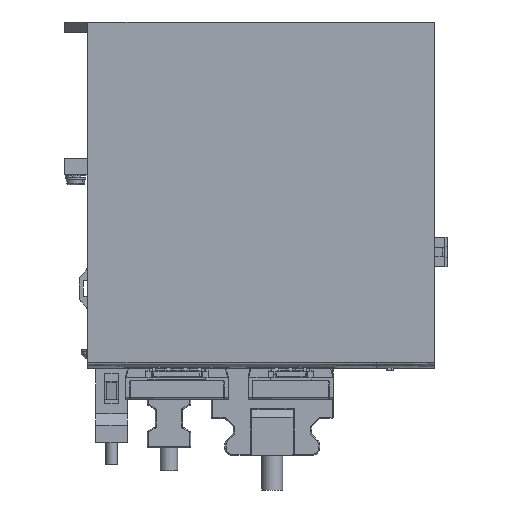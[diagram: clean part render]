
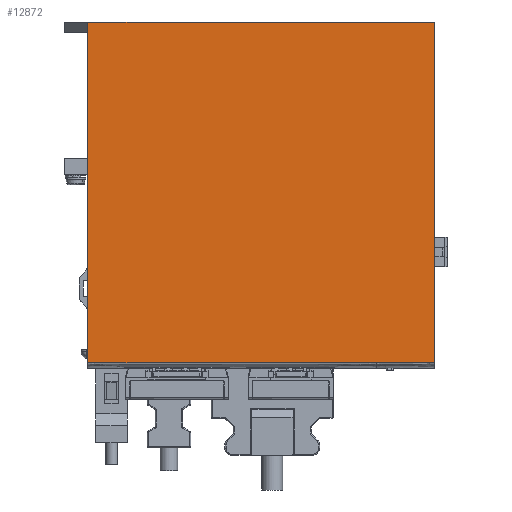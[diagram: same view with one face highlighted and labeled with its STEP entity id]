
A CAD part, front view. The second image highlights one B-rep face of the part: STEP entity #12872.
In plain terms, the highlighted planar face has unit normal (0, -1, 0).
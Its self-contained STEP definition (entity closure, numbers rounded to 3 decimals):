
#1773 = CARTESIAN_POINT ( 'NONE',  ( -150., 0., -81.9 ) ) ;
#11185 = EDGE_CURVE ( 'NONE', #82379, #142981, #142294, .T. ) ;
#12872 = ADVANCED_FACE ( 'NONE', ( #31093 ), #71341, .T. ) ;
#15510 = CARTESIAN_POINT ( 'NONE',  ( 0., 0., -81.9 ) ) ;
#21020 = DIRECTION ( 'NONE',  ( 1., 0., 0. ) ) ;
#21426 = ORIENTED_EDGE ( 'NONE', *, *, #144101, .T. ) ;
#22028 = CARTESIAN_POINT ( 'NONE',  ( -150., 0., -81.9 ) ) ;
#25867 = CARTESIAN_POINT ( 'NONE',  ( -150., 0., -81.9 ) ) ;
#27388 = CARTESIAN_POINT ( 'NONE',  ( 0., 0., -81.9 ) ) ;
#29488 = DIRECTION ( 'NONE',  ( 0., 0., -1. ) ) ;
#31093 = FACE_OUTER_BOUND ( 'NONE', #67548, .T. ) ;
#32416 = VERTEX_POINT ( 'NONE', #1773 ) ;
#35693 = DIRECTION ( 'NONE',  ( 0., 0., -1. ) ) ;
#36795 = VECTOR ( 'NONE', #29488, 1000. ) ;
#67548 = EDGE_LOOP ( 'NONE', ( #139194, #77739, #68849, #21426 ) ) ;
#68849 = ORIENTED_EDGE ( 'NONE', *, *, #138188, .T. ) ;
#71341 = PLANE ( 'NONE',  #121592 ) ;
#77739 = ORIENTED_EDGE ( 'NONE', *, *, #11185, .F. ) ;
#78342 = VECTOR ( 'NONE', #86868, 1000. ) ;
#82379 = VERTEX_POINT ( 'NONE', #84545 ) ;
#83330 = CARTESIAN_POINT ( 'NONE',  ( 0., 0., 65.6 ) ) ;
#84132 = VECTOR ( 'NONE', #21020, 1000. ) ;
#84545 = CARTESIAN_POINT ( 'NONE',  ( -150., 0., 65.6 ) ) ;
#85742 = LINE ( 'NONE', #25867, #117790 ) ;
#86868 = DIRECTION ( 'NONE',  ( 1., 0., 0. ) ) ;
#95073 = LINE ( 'NONE', #27388, #36795 ) ;
#98355 = DIRECTION ( 'NONE',  ( 0., 0., -1. ) ) ;
#108718 = VERTEX_POINT ( 'NONE', #15510 ) ;
#116180 = LINE ( 'NONE', #117717, #84132 ) ;
#117717 = CARTESIAN_POINT ( 'NONE',  ( -150., 0., -81.9 ) ) ;
#117790 = VECTOR ( 'NONE', #98355, 1000. ) ;
#119235 = DIRECTION ( 'NONE',  ( 0., -1., 0. ) ) ;
#121592 = AXIS2_PLACEMENT_3D ( 'NONE', #22028, #119235, #35693 ) ;
#124727 = CARTESIAN_POINT ( 'NONE',  ( -150., 0., 65.6 ) ) ;
#136900 = EDGE_CURVE ( 'NONE', #142981, #108718, #95073, .T. ) ;
#138188 = EDGE_CURVE ( 'NONE', #82379, #32416, #85742, .T. ) ;
#139194 = ORIENTED_EDGE ( 'NONE', *, *, #136900, .F. ) ;
#142294 = LINE ( 'NONE', #124727, #78342 ) ;
#142981 = VERTEX_POINT ( 'NONE', #83330 ) ;
#144101 = EDGE_CURVE ( 'NONE', #32416, #108718, #116180, .T. ) ;
